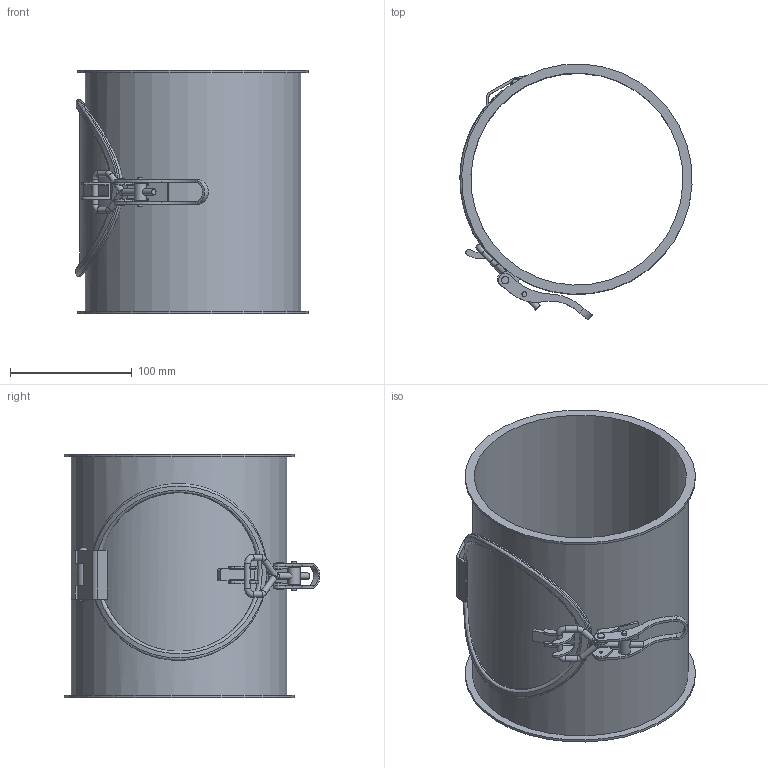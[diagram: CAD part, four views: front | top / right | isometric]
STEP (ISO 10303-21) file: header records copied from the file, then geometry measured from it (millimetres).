
FILE_DESCRIPTION((''),'2;1');
FILE_NAME('U:\Wolfgang\Marcel-3D\fertig\Kapitel 4\1711043.stp','2011-04-21T08:50:48',('TK1'),(''),'Autodesk Inventor 2010','Autodesk Inventor 2010','');
FILE_SCHEMA(('AUTOMOTIVE_DESIGN { 1 0 10303 214 1 1 1 1 }'));
Length unit declared in the file: millimetre
Products named in the file (15): 1711043 (Detailgenauigkeit1); 1711043-1; GelenkDeckel1b; GelenkDeckel1c; Deckel17; Deckel17b; GelenkDeckel1a; VerschlussDeckel17; dichtung17; Verschluss17; Verschluss17a; Verschluss1b; Verschluss1c; Verschluss1d; Verschluss1e
Assembly tree (15 placements, depth 3):
  1711043 (Detailgenauigkeit1)
    1711043-1
    GelenkDeckel1b
    GelenkDeckel1c
    Deckel17
      Deckel17b
      GelenkDeckel1a
      VerschlussDeckel17
      dichtung17
    Verschluss17
      Verschluss17a
      Verschluss1b
      Verschluss1c
      Verschluss1d  x2
      Verschluss1e
Bounding box: 190.36 x 209.8 x 200 mm (x, y, z)
Volume: 210015.5 mm3; surface area: 275671 mm2
Topology: 13 solids, 13 shells, 177 faces, 416 edges, 269 vertices
Faces by surface type: cylinder 81, plane 80, torus 9, bspline 5, sphere 2
Full cylindrical faces by diameter (mm): 2 x4, 4 x4, 5 x6, 6 x6, 6.2 x2, 10 x1, 115 x1, 130 x1, 135 x1, 145 x1, 174 x1, 177 x1, 189 x2
Entity records: 6937 total; most frequent: CARTESIAN_POINT 2680, DIRECTION 862, ORIENTED_EDGE 710, EDGE_CURVE 355, AXIS2_PLACEMENT_3D 341, VERTEX_POINT 252, EDGE_LOOP 241, VECTOR 180
